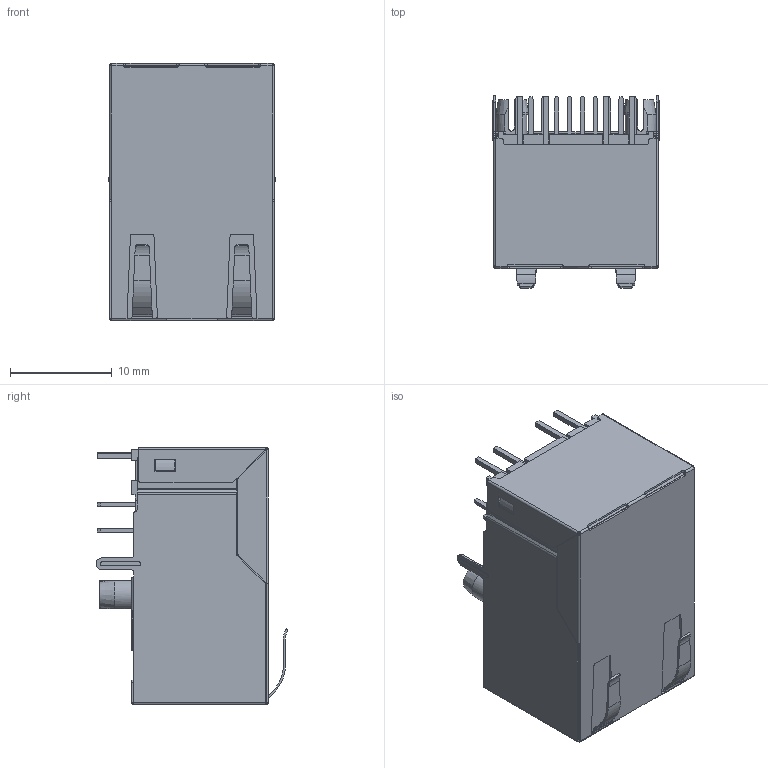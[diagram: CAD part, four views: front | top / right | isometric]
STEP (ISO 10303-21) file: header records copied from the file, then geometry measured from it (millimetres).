
FILE_DESCRIPTION((''),'2;1');
FILE_NAME('DGKYD311Q010DB1A4DHDBN','2023-05-06T17:00:38',('Administrator'),(''),'CREO PARAMETRIC BY PTC INC, 2019010','CREO PARAMETRIC BY PTC INC, 2019010','');
FILE_SCHEMA(('CONFIG_CONTROL_DESIGN'));
Products named in the file (1): DGKYD311Q010DB1A4DHDBN
Bounding box: 16.4 x 18.88 x 25.3 mm (x, y, z)
Volume: 2612.1 mm3; surface area: 7915.4 mm2
Topology: 1 solids, 14 shells, 1900 faces, 5544 edges, 3558 vertices
Faces by surface type: plane 1467, cylinder 397, extrusion 12, torus 8, sphere 8, cone 4, bspline 4
Entity records: 63195 total; most frequent: CARTESIAN_POINT 12362, ORIENTED_EDGE 11056, DIRECTION 10044, EDGE_CURVE 5536, VECTOR 4450, LINE 4438, VERTEX_POINT 3558, AXIS2_PLACEMENT_3D 2797
